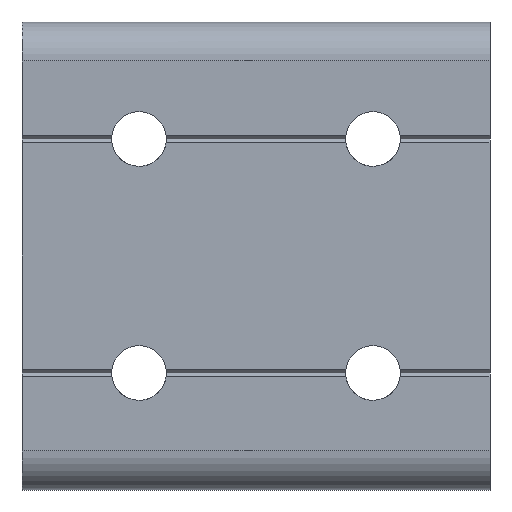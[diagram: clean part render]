
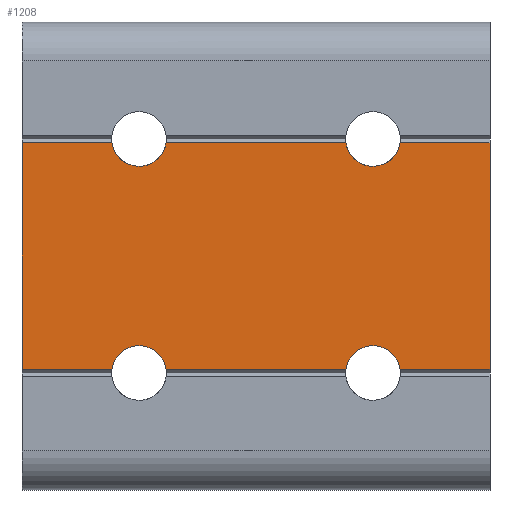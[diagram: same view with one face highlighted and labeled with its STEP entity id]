
A CAD part, front view. The second image highlights one B-rep face of the part: STEP entity #1208.
In plain terms, the highlighted planar face has unit normal (0, -1, 0).
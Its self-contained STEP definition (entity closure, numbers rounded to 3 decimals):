
#43=CIRCLE('',#1258,3.5);
#44=CIRCLE('',#1259,3.5);
#45=CIRCLE('',#1260,3.5);
#46=CIRCLE('',#1261,3.5);
#71=ORIENTED_EDGE('',*,*,#347,.F.);
#72=ORIENTED_EDGE('',*,*,#348,.T.);
#73=ORIENTED_EDGE('',*,*,#349,.F.);
#74=ORIENTED_EDGE('',*,*,#350,.T.);
#75=ORIENTED_EDGE('',*,*,#351,.F.);
#76=ORIENTED_EDGE('',*,*,#352,.T.);
#77=ORIENTED_EDGE('',*,*,#353,.F.);
#78=ORIENTED_EDGE('',*,*,#354,.T.);
#79=ORIENTED_EDGE('',*,*,#355,.F.);
#80=ORIENTED_EDGE('',*,*,#356,.T.);
#81=ORIENTED_EDGE('',*,*,#357,.F.);
#82=ORIENTED_EDGE('',*,*,#358,.T.);
#347=EDGE_CURVE('',#485,#486,#577,.T.);
#348=EDGE_CURVE('',#485,#487,#43,.T.);
#349=EDGE_CURVE('',#488,#487,#578,.T.);
#350=EDGE_CURVE('',#488,#489,#579,.T.);
#351=EDGE_CURVE('',#490,#489,#580,.T.);
#352=EDGE_CURVE('',#490,#491,#44,.T.);
#353=EDGE_CURVE('',#492,#491,#581,.T.);
#354=EDGE_CURVE('',#492,#493,#45,.T.);
#355=EDGE_CURVE('',#494,#493,#582,.T.);
#356=EDGE_CURVE('',#494,#495,#583,.T.);
#357=EDGE_CURVE('',#496,#495,#584,.T.);
#358=EDGE_CURVE('',#496,#486,#46,.T.);
#485=VERTEX_POINT('',#1620);
#486=VERTEX_POINT('',#1621);
#487=VERTEX_POINT('',#1623);
#488=VERTEX_POINT('',#1625);
#489=VERTEX_POINT('',#1627);
#490=VERTEX_POINT('',#1629);
#491=VERTEX_POINT('',#1631);
#492=VERTEX_POINT('',#1633);
#493=VERTEX_POINT('',#1635);
#494=VERTEX_POINT('',#1637);
#495=VERTEX_POINT('',#1639);
#496=VERTEX_POINT('',#1641);
#577=LINE('',#1619,#671);
#578=LINE('',#1624,#672);
#579=LINE('',#1626,#673);
#580=LINE('',#1628,#674);
#581=LINE('',#1632,#675);
#582=LINE('',#1636,#676);
#583=LINE('',#1638,#677);
#584=LINE('',#1640,#678);
#671=VECTOR('',#1349,1000.);
#672=VECTOR('',#1352,1000.);
#673=VECTOR('',#1353,1000.);
#674=VECTOR('',#1354,1000.);
#675=VECTOR('',#1357,1000.);
#676=VECTOR('',#1360,1000.);
#677=VECTOR('',#1361,1000.);
#678=VECTOR('',#1362,1000.);
#765=EDGE_LOOP('',(#71,#72,#73,#74,#75,#76,#77,#78,#79,#80,#81,#82));
#813=FACE_BOUND('',#765,.T.);
#861=PLANE('',#1257);
#1208=ADVANCED_FACE('',(#813),#861,.T.);
#1257=AXIS2_PLACEMENT_3D('',#1618,#1347,#1348);
#1258=AXIS2_PLACEMENT_3D('',#1622,#1350,#1351);
#1259=AXIS2_PLACEMENT_3D('',#1630,#1355,#1356);
#1260=AXIS2_PLACEMENT_3D('',#1634,#1358,#1359);
#1261=AXIS2_PLACEMENT_3D('',#1642,#1363,#1364);
#1347=DIRECTION('',(0.,-1.,0.));
#1348=DIRECTION('',(0.,0.,-1.));
#1349=DIRECTION('',(1.,0.,0.));
#1350=DIRECTION('',(0.,1.,0.));
#1351=DIRECTION('',(0.,0.,-1.));
#1352=DIRECTION('',(1.,0.,0.));
#1353=DIRECTION('',(0.,0.,-1.));
#1354=DIRECTION('',(-1.,0.,0.));
#1355=DIRECTION('',(0.,1.,0.));
#1356=DIRECTION('',(0.,0.,-1.));
#1357=DIRECTION('',(-1.,0.,0.));
#1358=DIRECTION('',(0.,1.,0.));
#1359=DIRECTION('',(0.,0.,-1.));
#1360=DIRECTION('',(-1.,0.,0.));
#1361=DIRECTION('',(0.,0.,1.));
#1362=DIRECTION('',(1.,0.,0.));
#1363=DIRECTION('',(0.,1.,0.));
#1364=DIRECTION('',(0.,0.,-1.));
#1618=CARTESIAN_POINT('',(0.,0.,0.));
#1619=CARTESIAN_POINT('',(-55.141,0.,14.5));
#1620=CARTESIAN_POINT('',(-11.536,0.,14.5));
#1621=CARTESIAN_POINT('',(11.536,0.,14.5));
#1622=CARTESIAN_POINT('',(-15.,0.,15.));
#1623=CARTESIAN_POINT('',(-18.464,0.,14.5));
#1624=CARTESIAN_POINT('',(-55.141,0.,14.5));
#1625=CARTESIAN_POINT('',(-30.,0.,14.5));
#1626=CARTESIAN_POINT('',(-30.,0.,30.));
#1627=CARTESIAN_POINT('',(-30.,0.,-14.5));
#1628=CARTESIAN_POINT('',(0.,0.,-14.5));
#1629=CARTESIAN_POINT('',(-18.464,0.,-14.5));
#1630=CARTESIAN_POINT('',(-15.,0.,-15.));
#1631=CARTESIAN_POINT('',(-11.536,0.,-14.5));
#1632=CARTESIAN_POINT('',(0.,0.,-14.5));
#1633=CARTESIAN_POINT('',(11.536,0.,-14.5));
#1634=CARTESIAN_POINT('',(15.,0.,-15.));
#1635=CARTESIAN_POINT('',(18.464,0.,-14.5));
#1636=CARTESIAN_POINT('',(0.,0.,-14.5));
#1637=CARTESIAN_POINT('',(30.,0.,-14.5));
#1638=CARTESIAN_POINT('',(30.,0.,-30.));
#1639=CARTESIAN_POINT('',(30.,0.,14.5));
#1640=CARTESIAN_POINT('',(-55.141,0.,14.5));
#1641=CARTESIAN_POINT('',(18.464,0.,14.5));
#1642=CARTESIAN_POINT('',(15.,0.,15.));
